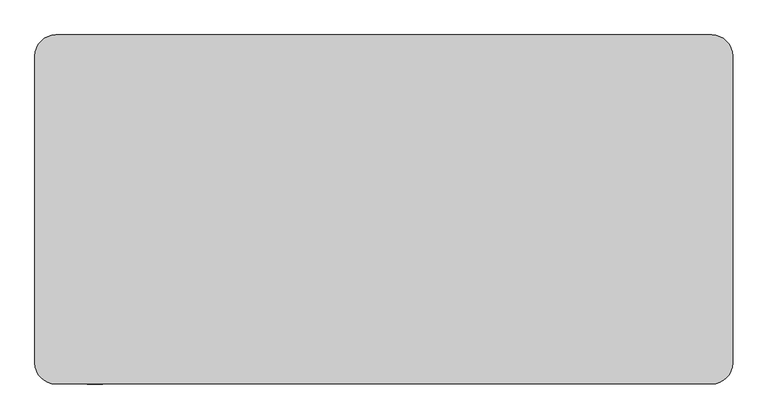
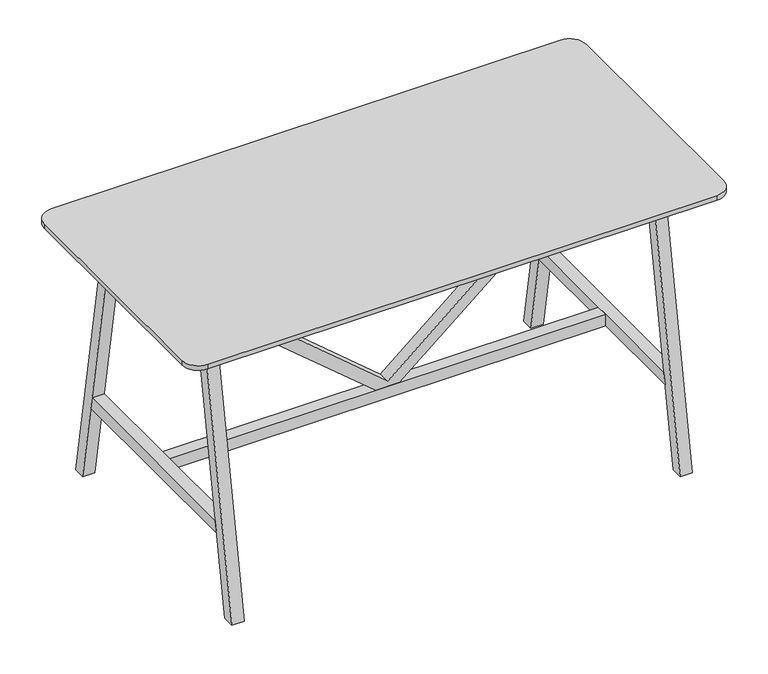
"""IFC4 building model written with IfcOpenShell, lengths in millimetres: furniture geometry, BDG_BossDesign_Tbls_AgentTables4Legs : AGE-HT-2000-1000-3D."""

import ifcopenshell
import ifcopenshell.guid

model = None  # the IFC model being written
_history = None  # IfcOwnerHistory: only IFC2X3 demands one
_inside = {}  # id of a spatial element -> (the spatial element, [elements in it])
_under = {}  # id of a project, library or spatial element -> (it, [spatial elements below it])
_declared = {}  # id of a project -> (the project, [libraries it declares])
_typed = {}  # id of a type object -> (the type object, [elements of that type])
_made_of = {}  # id of a material, layer set ... -> (it, [elements and type objects made of it])


def new_model(schema):
    """Start an empty IFC model of exactly this schema.

    Asked for "IFC4X3", IfcOpenShell would pick the latest addendum, in which some entities
    have other attributes; the version numbers below select the first issue.
    IFC2X3 requires an IfcOwnerHistory on every rooted entity: one is made here for all.
    """
    global model, _history
    if schema == "IFC4X3":
        model = ifcopenshell.file(schema_version=(4, 3, 0, 0))
    else:
        model = ifcopenshell.file(schema=schema)
    _inside.clear()
    _under.clear()
    _declared.clear()
    _typed.clear()
    _made_of.clear()
    _history = None
    if model.schema == "IFC2X3":
        org = make("IfcOrganization", Name="unknown")
        user = make(
            "IfcPersonAndOrganization",
            ThePerson=make("IfcPerson", FamilyName="unknown"),
            TheOrganization=org,
        )
        app = make(
            "IfcApplication",
            ApplicationDeveloper=org,
            Version="unknown",
            ApplicationFullName="unknown",
            ApplicationIdentifier="unknown",
        )
        _history = make(
            "IfcOwnerHistory",
            OwningUser=user,
            OwningApplication=app,
            ChangeAction="ADDED",
            CreationDate=0,
        )
    return model


def make(cls, **values):
    """One entity of the class cls with the attributes given. An attribute that is None is left unset."""
    return model.create_entity(
        cls, **{name: value for name, value in values.items() if value is not None}
    )


def rooted(cls, **values):
    """An entity with a GlobalId (a new one), such as an element, a storey or a relation."""
    return make(cls, GlobalId=ifcopenshell.guid.new(), OwnerHistory=_history, **values)


def si_unit(unit_type, name, prefix=None):
    """IfcSIUnit, for example si_unit("LENGTHUNIT", "METRE", prefix="MILLI")."""
    return make("IfcSIUnit", UnitType=unit_type, Prefix=prefix, Name=name)


def assignment(units):
    """IfcUnitAssignment: the units of a project."""
    return None if units is None else make("IfcUnitAssignment", Units=units)


def point(xyz):
    """IfcCartesianPoint."""
    return None if xyz is None else make("IfcCartesianPoint", Coordinates=xyz)


def direction(xyz):
    """IfcDirection."""
    return None if xyz is None else make("IfcDirection", DirectionRatios=xyz)


def frame(location, z_axis=None, x_axis=None):
    """IfcAxis2Placement3D, a coordinate frame: its origin and axes. An axis left out is left unset."""
    return make(
        "IfcAxis2Placement3D",
        Location=point(location),
        Axis=direction(z_axis),
        RefDirection=direction(x_axis),
    )


def frame_2d(location, x_axis=None):
    """IfcAxis2Placement2D, a coordinate frame in the plane: its origin and x axis."""
    return make(
        "IfcAxis2Placement2D", Location=point(location), RefDirection=direction(x_axis)
    )


def origin():
    """The frame at (0, 0, 0) with its axes left unset."""
    return frame((0.0, 0.0, 0.0))


def place(relative_to, where):
    """IfcLocalPlacement: puts the frame where relative to a parent placement (None: the world)."""
    return make(
        "IfcLocalPlacement", PlacementRelTo=relative_to, RelativePlacement=where
    )


def context(
    kind, dimensions, precision=None, world=None, true_north=None, identifier=None
):
    """IfcGeometricRepresentationContext, for example the 3D "Model" context."""
    return make(
        "IfcGeometricRepresentationContext",
        ContextIdentifier=identifier,
        ContextType=kind,
        CoordinateSpaceDimension=dimensions,
        Precision=precision,
        WorldCoordinateSystem=world,
        TrueNorth=true_north,
    )


def project(units=None, contexts=None):
    """IfcProject with its units and contexts."""
    return rooted(
        "IfcProject",
        Name="project",
        RepresentationContexts=contexts,
        UnitsInContext=assignment(units),
    )


def spatial(cls, under=None, at=None, **own):
    """A site, building, storey or space (cls), placed at a placement, below another one or the project."""
    s = rooted(cls, ObjectPlacement=at, **own)
    if under is not None:
        _under.setdefault(under.id(), (under, []))[1].append(s)
    return s


def polyline(points):
    """IfcPolyline through the points."""
    return make("IfcPolyline", Points=[point(p) for p in points])


def circle_curve(where, radius):
    """IfcCircle in the frame where."""
    return make("IfcCircle", Position=where, Radius=radius)


def trimmed(basis, trim1, trim2, sense, master):
    """IfcTrimmedCurve: the piece of a basis curve between two trims."""
    return make(
        "IfcTrimmedCurve",
        BasisCurve=basis,
        Trim1=trim1,
        Trim2=trim2,
        SenseAgreement=sense,
        MasterRepresentation=master,
    )


def segment(curve, same_sense, transition):
    """IfcCompositeCurveSegment."""
    return make(
        "IfcCompositeCurveSegment",
        Transition=transition,
        SameSense=same_sense,
        ParentCurve=curve,
    )


def composite_curve(segments, self_intersect=None):
    """IfcCompositeCurve: segments joined end to end."""
    return make("IfcCompositeCurve", Segments=segments, SelfIntersect=self_intersect)


def outline(outer, holes=None, kind="AREA"):
    """IfcArbitraryClosedProfileDef: a profile drawn as a closed curve; with holes, ...WithVoids."""
    if holes is None:
        return make("IfcArbitraryClosedProfileDef", ProfileType=kind, OuterCurve=outer)
    return make(
        "IfcArbitraryProfileDefWithVoids",
        ProfileType=kind,
        OuterCurve=outer,
        InnerCurves=holes,
    )


def extrude(swept, where, along, depth):
    """IfcExtrudedAreaSolid: the profile swept, set in the frame where, extruded along a direction by depth."""
    return make(
        "IfcExtrudedAreaSolid",
        SweptArea=swept,
        Position=where,
        ExtrudedDirection=direction(along),
        Depth=depth,
    )


def shape(context_of_items, identifier, shape_type, items):
    """IfcShapeRepresentation: the items that make up one representation, for example the "Body"."""
    return make(
        "IfcShapeRepresentation",
        ContextOfItems=context_of_items,
        RepresentationIdentifier=identifier,
        RepresentationType=shape_type,
        Items=items,
    )


def source(mapping_origin, context_of_items, identifier, shape_type, items):
    """IfcRepresentationMap: a shape defined once, which mapped items show again and again."""
    return make(
        "IfcRepresentationMap",
        MappingOrigin=mapping_origin,
        MappedRepresentation=shape(context_of_items, identifier, shape_type, items),
    )


def transform(
    local_origin,
    x_axis=None,
    y_axis=None,
    z_axis=None,
    scale=None,
    scale2=None,
    scale3=None,
    uniform=True,
):
    """IfcCartesianTransformationOperator3D, or its non-uniform kind. x_axis, y_axis, z_axis: its Axis1, 2, 3."""
    if uniform:
        return make(
            "IfcCartesianTransformationOperator3D",
            Axis1=direction(x_axis),
            Axis2=direction(y_axis),
            LocalOrigin=point(local_origin),
            Scale=scale,
            Axis3=direction(z_axis),
        )
    return make(
        "IfcCartesianTransformationOperator3DnonUniform",
        Axis1=direction(x_axis),
        Axis2=direction(y_axis),
        LocalOrigin=point(local_origin),
        Scale=scale,
        Axis3=direction(z_axis),
        Scale2=scale2,
        Scale3=scale3,
    )


def mapped(mapping_source, mapping_target):
    """IfcMappedItem: shows the shape of a source again, moved by a transform."""
    return make(
        "IfcMappedItem", MappingSource=mapping_source, MappingTarget=mapping_target
    )


def made_of(thing, what):
    """Note that an element or type object is made of a material, layer set ...; save() writes the relation."""
    if what is not None:
        _made_of.setdefault(what.id(), (what, []))[1].append(thing)
    return thing


def element(
    cls,
    number,
    at=None,
    inside=None,
    cuts=None,
    type_object=None,
    material=None,
    context=None,
    identifier="Body",
    shape_type=None,
    held_by="IfcProductDefinitionShape",
    body=None,
    shapes=None,
    **own,
):
    """One element of the class cls, such as IfcWall. Its Tag is "e" and its number.

    at: its placement. inside: the storey or other place that contains it. cuts: it is an
    opening in that element (IfcRelVoidsElement). A single representation is given by context,
    identifier, shape_type and body (its items); several are given by shapes. held_by: the class
    of the entity that holds the representations. save() writes the other relations.
    """
    e = rooted(cls, Tag="e%d" % number, ObjectPlacement=at, **own)
    if body is not None:
        shapes = [shape(context, identifier, shape_type, body)]
    if shapes is not None:
        e.Representation = make(held_by, Representations=shapes)
    if inside is not None:
        _inside.setdefault(inside.id(), (inside, []))[1].append(e)
    if cuts is not None:
        rooted(
            "IfcRelVoidsElement", RelatingBuildingElement=cuts, RelatedOpeningElement=e
        )
    if type_object is not None:
        _typed.setdefault(type_object.id(), (type_object, []))[1].append(e)
    return made_of(e, material)


def aggregate(whole, parts):
    """IfcRelAggregates: a whole, such as a stair, and the parts it consists of."""
    return rooted("IfcRelAggregates", RelatingObject=whole, RelatedObjects=parts)


def save(model, path):
    """Write the relations noted so far, then the file.

    IfcRelAggregates (storeys below a building ...), IfcRelContainedInSpatialStructure (elements
    in a storey), IfcRelDefinesByType, IfcRelAssociatesMaterial and IfcRelDeclares: one each for
    every whole, place, type object, material and project.
    """
    for whole, parts in _under.values():
        aggregate(whole, parts)
    for where, things in _inside.values():
        rooted(
            "IfcRelContainedInSpatialStructure",
            RelatedElements=things,
            RelatingStructure=where,
        )
    for kind, things in _typed.values():
        rooted("IfcRelDefinesByType", RelatedObjects=things, RelatingType=kind)
    for what, things in _made_of.values():
        rooted("IfcRelAssociatesMaterial", RelatedObjects=things, RelatingMaterial=what)
    for by, libraries in _declared.values():
        rooted("IfcRelDeclares", RelatingContext=by, RelatedDefinitions=libraries)
    model.write(path)


def furniture_71caf283(model_context):
    return source(origin(), model_context, "Body", "SweptSolid", [
        extrude(outline(polyline([(1029.0, -805.0), (985.6193848, -805.0), (345.0, -44.0212994), (345.0, 44.0212994), (985.6193848, 805.0), (1029.0, 805.0), (1029.0, 785.1023991), (364.9999695, 0.0), (1029.0, -785.1023991), (1029.0, -805.0)])), frame((0.0, -22.5000305, 0.0), z_axis=(0.0, 1.0, 0.0), x_axis=(0.0, 0.0, 1.0)), (0.0, 0.0, 1.0), 45.000061),
        extrude(outline(polyline([(-394.7139143, 345.0), (394.7139143, 345.0), (402.5773161, 300.0), (-402.5773161, 300.0), (-394.7139143, 345.0)])), frame((805.0, 0.0, 0.0), z_axis=(1.0, 0.0, 0.0), x_axis=(0.0, 1.0, 0.0)), (0.0, 0.0, 1.0), 45.0),
        extrude(outline(polyline([(500.0, 0.0), (454.9999949, 0.0), (285.5, 970.0), (330.5000051, 970.0), (500.0, 0.0)])), frame((-850.0, 0.0, 0.0), z_axis=(1.0, 0.0, 0.0), x_axis=(0.0, 1.0, 0.0)), (0.0, 0.0, 1.0), 45.0),
        extrude(outline(polyline([(-500.0, 0.0), (-330.5000051, 970.0), (-285.5, 970.0), (-454.9999949, 0.0), (-500.0, 0.0)])), frame((-850.0, 0.0, 0.0), z_axis=(1.0, 0.0, 0.0), x_axis=(0.0, 1.0, 0.0)), (0.0, 0.0, 1.0), 45.0),
        extrude(outline(polyline([(-279.5, 1032.0), (279.5, 1032.0), (297.9691272, 960.0), (-297.9691272, 960.0), (-279.5, 1032.0)])), frame((388.0, 0.0, 0.0), z_axis=(1.0, 0.0, 0.0), x_axis=(0.0, 1.0, 0.0)), (0.0, 0.0, 1.0), 24.0),
        extrude(outline(polyline([(-394.7139143, 345.0), (394.7139143, 345.0), (402.5773161, 300.0), (-402.5773161, 300.0), (-394.7139143, 345.0)])), frame((-850.0, 0.0, 0.0), z_axis=(1.0, 0.0, 0.0), x_axis=(0.0, 1.0, 0.0)), (0.0, 0.0, 1.0), 45.0),
        extrude(outline(polyline([(-279.5, 1032.0), (279.5, 1032.0), (297.9691272, 960.0), (-297.9691272, 960.0), (-279.5, 1032.0)])), frame((-412.0, 0.0, 0.0), z_axis=(1.0, 0.0, 0.0), x_axis=(0.0, 1.0, 0.0)), (0.0, 0.0, 1.0), 24.0),
        extrude(outline(polyline([(-326.6006165, 944.973938), (-304.2770691, 1032.0), (-279.5, 1032.0), (-301.8235474, 944.973938), (-326.6006165, 944.973938)])), frame((-805.0, 0.0, 0.0), z_axis=(1.0, 0.0, 0.0), x_axis=(0.0, 1.0, 0.0)), (0.0, 0.0, 1.0), 1610.0),
        extrude(outline(polyline([(326.6006165, 944.973938), (301.8235474, 944.973938), (279.5, 1032.0), (304.2770691, 1032.0), (326.6006165, 944.973938)])), frame((-805.0, 0.0, 0.0), z_axis=(1.0, 0.0, 0.0), x_axis=(0.0, 1.0, 0.0)), (0.0, 0.0, 1.0), 1610.0),
        extrude(outline(polyline([(499.7999878, 0.0), (454.7999827, 0.0), (285.5, 970.0), (330.5000051, 970.0), (499.7999878, 0.0)])), frame((805.0, 0.0, 0.0), z_axis=(1.0, 0.0, 0.0), x_axis=(0.0, 1.0, 0.0)), (0.0, 0.0, 1.0), 45.0),
        extrude(outline(polyline([(-499.7999878, 0.0), (-330.5000051, 970.0), (-285.5, 970.0), (-454.7999827, 0.0), (-499.7999878, 0.0)])), frame((805.0, 0.0, 0.0), z_axis=(1.0, 0.0, 0.0), x_axis=(0.0, 1.0, 0.0)), (0.0, 0.0, 1.0), 45.0),
        extrude(outline(polyline([(805.0, 22.5000305), (805.0, -22.5000305), (-805.0, -22.5000305), (-805.0, 22.5000305), (805.0, 22.5000305)])), frame((0.0, 0.0, 300.0), z_axis=(0.0, 0.0, 1.0), x_axis=(1.0, 0.0, 0.0)), (0.0, 0.0, 1.0), 45.0),
        extrude(outline(composite_curve([segment(trimmed(circle_curve(frame_2d((940.0, 440.0)), 60.0), [point((940.0, 500.0))], [point((1000.0, 440.0))], False, "CARTESIAN"), True, "CONTINUOUS"), segment(polyline([(1000.0, 440.0), (1000.0, -440.0)]), True, "CONTINUOUS"), segment(trimmed(circle_curve(frame_2d((940.0, -440.0)), 60.0), [point((1000.0, -440.0))], [point((940.0, -500.0))], False, "CARTESIAN"), True, "CONTINUOUS"), segment(polyline([(940.0, -500.0), (-940.0, -500.0)]), True, "CONTINUOUS"), segment(trimmed(circle_curve(frame_2d((-940.0, -440.0)), 60.0), [point((-940.0, -500.0))], [point((-1000.0, -440.0))], False, "CARTESIAN"), True, "CONTINUOUS"), segment(polyline([(-1000.0, -440.0), (-1000.0, 440.0)]), True, "CONTINUOUS"), segment(trimmed(circle_curve(frame_2d((-940.0, 440.0)), 60.0), [point((-1000.0, 440.0))], [point((-940.0, 500.0))], False, "CARTESIAN"), True, "CONTINUOUS"), segment(polyline([(-940.0, 500.0), (940.0, 500.0)]), True, "CONTINUOUS")], self_intersect=False)), frame((0.0, 0.0, 1032.0), z_axis=(0.0, 0.0, 1.0), x_axis=(1.0, 0.0, 0.0)), (0.0, 0.0, 1.0), 18.0),
    ])


if __name__ == "__main__":
    model = new_model("IFC4")
    model_context = context("Model", 3, world=origin())
    ifc_project = project(units=[si_unit("LENGTHUNIT", "METRE", prefix="MILLI")], contexts=[model_context])
    site = spatial("IfcSite", under=ifc_project)
    building = spatial("IfcBuilding", under=site)
    placement = place(None, origin())
    furniture_shape = furniture_71caf283(model_context)
    element("IfcFurniture", 1, ObjectType="BDG_BossDesign_Tbls_AgentTables4Legs : AGE-HT-2000-1000-3D", at=placement, inside=building, context=model_context, shape_type="MappedRepresentation", body=[
        mapped(furniture_shape, transform((0.0, 0.0, 0.0), x_axis=(1.0, 0.0, 0.0), y_axis=(0.0, 1.0, 0.0), z_axis=(0.0, 0.0, 1.0))),
    ])
    save(model, "model.ifc")
